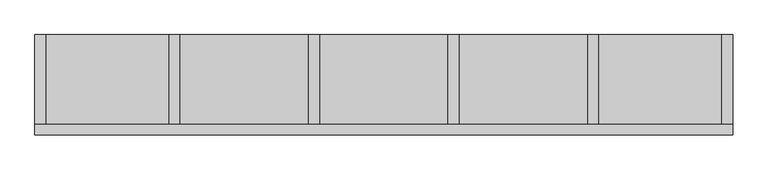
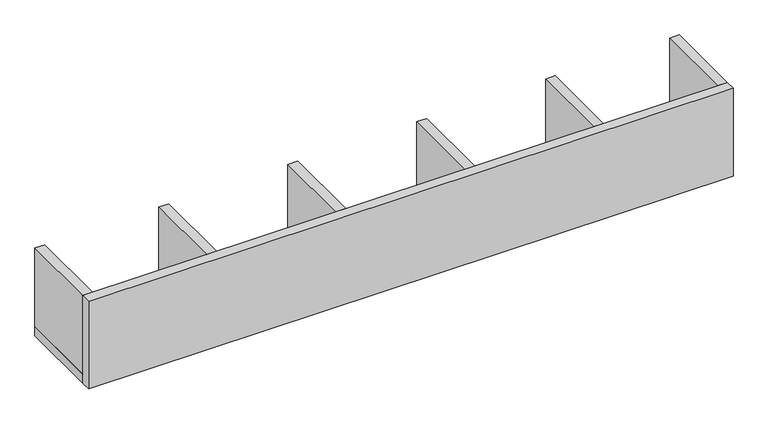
"""IFC4 building model written with IfcOpenShell, lengths in millimetres: furniture geometry, Police nástěnná : Benno Mensola."""

import ifcopenshell
import ifcopenshell.guid

model = None  # the IFC model being written
_history = None  # IfcOwnerHistory: only IFC2X3 demands one
_inside = {}  # id of a spatial element -> (the spatial element, [elements in it])
_under = {}  # id of a project, library or spatial element -> (it, [spatial elements below it])
_declared = {}  # id of a project -> (the project, [libraries it declares])
_typed = {}  # id of a type object -> (the type object, [elements of that type])
_made_of = {}  # id of a material, layer set ... -> (it, [elements and type objects made of it])


def new_model(schema):
    """Start an empty IFC model of exactly this schema.

    Asked for "IFC4X3", IfcOpenShell would pick the latest addendum, in which some entities
    have other attributes; the version numbers below select the first issue.
    IFC2X3 requires an IfcOwnerHistory on every rooted entity: one is made here for all.
    """
    global model, _history
    if schema == "IFC4X3":
        model = ifcopenshell.file(schema_version=(4, 3, 0, 0))
    else:
        model = ifcopenshell.file(schema=schema)
    _inside.clear()
    _under.clear()
    _declared.clear()
    _typed.clear()
    _made_of.clear()
    _history = None
    if model.schema == "IFC2X3":
        org = make("IfcOrganization", Name="unknown")
        user = make(
            "IfcPersonAndOrganization",
            ThePerson=make("IfcPerson", FamilyName="unknown"),
            TheOrganization=org,
        )
        app = make(
            "IfcApplication",
            ApplicationDeveloper=org,
            Version="unknown",
            ApplicationFullName="unknown",
            ApplicationIdentifier="unknown",
        )
        _history = make(
            "IfcOwnerHistory",
            OwningUser=user,
            OwningApplication=app,
            ChangeAction="ADDED",
            CreationDate=0,
        )
    return model


def make(cls, **values):
    """One entity of the class cls with the attributes given. An attribute that is None is left unset."""
    return model.create_entity(
        cls, **{name: value for name, value in values.items() if value is not None}
    )


def rooted(cls, **values):
    """An entity with a GlobalId (a new one), such as an element, a storey or a relation."""
    return make(cls, GlobalId=ifcopenshell.guid.new(), OwnerHistory=_history, **values)


def si_unit(unit_type, name, prefix=None):
    """IfcSIUnit, for example si_unit("LENGTHUNIT", "METRE", prefix="MILLI")."""
    return make("IfcSIUnit", UnitType=unit_type, Prefix=prefix, Name=name)


def assignment(units):
    """IfcUnitAssignment: the units of a project."""
    return None if units is None else make("IfcUnitAssignment", Units=units)


def point(xyz):
    """IfcCartesianPoint."""
    return None if xyz is None else make("IfcCartesianPoint", Coordinates=xyz)


def direction(xyz):
    """IfcDirection."""
    return None if xyz is None else make("IfcDirection", DirectionRatios=xyz)


def frame(location, z_axis=None, x_axis=None):
    """IfcAxis2Placement3D, a coordinate frame: its origin and axes. An axis left out is left unset."""
    return make(
        "IfcAxis2Placement3D",
        Location=point(location),
        Axis=direction(z_axis),
        RefDirection=direction(x_axis),
    )


def origin():
    """The frame at (0, 0, 0) with its axes left unset."""
    return frame((0.0, 0.0, 0.0))


def place(relative_to, where):
    """IfcLocalPlacement: puts the frame where relative to a parent placement (None: the world)."""
    return make(
        "IfcLocalPlacement", PlacementRelTo=relative_to, RelativePlacement=where
    )


def context(
    kind, dimensions, precision=None, world=None, true_north=None, identifier=None
):
    """IfcGeometricRepresentationContext, for example the 3D "Model" context."""
    return make(
        "IfcGeometricRepresentationContext",
        ContextIdentifier=identifier,
        ContextType=kind,
        CoordinateSpaceDimension=dimensions,
        Precision=precision,
        WorldCoordinateSystem=world,
        TrueNorth=true_north,
    )


def project(units=None, contexts=None):
    """IfcProject with its units and contexts."""
    return rooted(
        "IfcProject",
        Name="project",
        RepresentationContexts=contexts,
        UnitsInContext=assignment(units),
    )


def spatial(cls, under=None, at=None, **own):
    """A site, building, storey or space (cls), placed at a placement, below another one or the project."""
    s = rooted(cls, ObjectPlacement=at, **own)
    if under is not None:
        _under.setdefault(under.id(), (under, []))[1].append(s)
    return s


def polyline(points):
    """IfcPolyline through the points."""
    return make("IfcPolyline", Points=[point(p) for p in points])


def outline(outer, holes=None, kind="AREA"):
    """IfcArbitraryClosedProfileDef: a profile drawn as a closed curve; with holes, ...WithVoids."""
    if holes is None:
        return make("IfcArbitraryClosedProfileDef", ProfileType=kind, OuterCurve=outer)
    return make(
        "IfcArbitraryProfileDefWithVoids",
        ProfileType=kind,
        OuterCurve=outer,
        InnerCurves=holes,
    )


def extrude(swept, where, along, depth):
    """IfcExtrudedAreaSolid: the profile swept, set in the frame where, extruded along a direction by depth."""
    return make(
        "IfcExtrudedAreaSolid",
        SweptArea=swept,
        Position=where,
        ExtrudedDirection=direction(along),
        Depth=depth,
    )


def shape(context_of_items, identifier, shape_type, items):
    """IfcShapeRepresentation: the items that make up one representation, for example the "Body"."""
    return make(
        "IfcShapeRepresentation",
        ContextOfItems=context_of_items,
        RepresentationIdentifier=identifier,
        RepresentationType=shape_type,
        Items=items,
    )


def source(mapping_origin, context_of_items, identifier, shape_type, items):
    """IfcRepresentationMap: a shape defined once, which mapped items show again and again."""
    return make(
        "IfcRepresentationMap",
        MappingOrigin=mapping_origin,
        MappedRepresentation=shape(context_of_items, identifier, shape_type, items),
    )


def transform(
    local_origin,
    x_axis=None,
    y_axis=None,
    z_axis=None,
    scale=None,
    scale2=None,
    scale3=None,
    uniform=True,
):
    """IfcCartesianTransformationOperator3D, or its non-uniform kind. x_axis, y_axis, z_axis: its Axis1, 2, 3."""
    if uniform:
        return make(
            "IfcCartesianTransformationOperator3D",
            Axis1=direction(x_axis),
            Axis2=direction(y_axis),
            LocalOrigin=point(local_origin),
            Scale=scale,
            Axis3=direction(z_axis),
        )
    return make(
        "IfcCartesianTransformationOperator3DnonUniform",
        Axis1=direction(x_axis),
        Axis2=direction(y_axis),
        LocalOrigin=point(local_origin),
        Scale=scale,
        Axis3=direction(z_axis),
        Scale2=scale2,
        Scale3=scale3,
    )


def mapped(mapping_source, mapping_target):
    """IfcMappedItem: shows the shape of a source again, moved by a transform."""
    return make(
        "IfcMappedItem", MappingSource=mapping_source, MappingTarget=mapping_target
    )


def made_of(thing, what):
    """Note that an element or type object is made of a material, layer set ...; save() writes the relation."""
    if what is not None:
        _made_of.setdefault(what.id(), (what, []))[1].append(thing)
    return thing


def element(
    cls,
    number,
    at=None,
    inside=None,
    cuts=None,
    type_object=None,
    material=None,
    context=None,
    identifier="Body",
    shape_type=None,
    held_by="IfcProductDefinitionShape",
    body=None,
    shapes=None,
    **own,
):
    """One element of the class cls, such as IfcWall. Its Tag is "e" and its number.

    at: its placement. inside: the storey or other place that contains it. cuts: it is an
    opening in that element (IfcRelVoidsElement). A single representation is given by context,
    identifier, shape_type and body (its items); several are given by shapes. held_by: the class
    of the entity that holds the representations. save() writes the other relations.
    """
    e = rooted(cls, Tag="e%d" % number, ObjectPlacement=at, **own)
    if body is not None:
        shapes = [shape(context, identifier, shape_type, body)]
    if shapes is not None:
        e.Representation = make(held_by, Representations=shapes)
    if inside is not None:
        _inside.setdefault(inside.id(), (inside, []))[1].append(e)
    if cuts is not None:
        rooted(
            "IfcRelVoidsElement", RelatingBuildingElement=cuts, RelatedOpeningElement=e
        )
    if type_object is not None:
        _typed.setdefault(type_object.id(), (type_object, []))[1].append(e)
    return made_of(e, material)


def aggregate(whole, parts):
    """IfcRelAggregates: a whole, such as a stair, and the parts it consists of."""
    return rooted("IfcRelAggregates", RelatingObject=whole, RelatedObjects=parts)


def save(model, path):
    """Write the relations noted so far, then the file.

    IfcRelAggregates (storeys below a building ...), IfcRelContainedInSpatialStructure (elements
    in a storey), IfcRelDefinesByType, IfcRelAssociatesMaterial and IfcRelDeclares: one each for
    every whole, place, type object, material and project.
    """
    for whole, parts in _under.values():
        aggregate(whole, parts)
    for where, things in _inside.values():
        rooted(
            "IfcRelContainedInSpatialStructure",
            RelatedElements=things,
            RelatingStructure=where,
        )
    for kind, things in _typed.values():
        rooted("IfcRelDefinesByType", RelatedObjects=things, RelatingType=kind)
    for what, things in _made_of.values():
        rooted("IfcRelAssociatesMaterial", RelatedObjects=things, RelatingMaterial=what)
    for by, libraries in _declared.values():
        rooted("IfcRelDeclares", RelatingContext=by, RelatedDefinitions=libraries)
    model.write(path)


def furniture_7eedec44(model_context):
    return source(origin(), model_context, "Body", "SweptSolid", [
        extrude(outline(polyline([(570.2197735, 62.5), (-609.7802265, 62.5), (-609.7802265, 80.5), (570.2197735, 80.5), (570.2197735, 62.5)])), frame((0.0, 0.0, 1700.0), z_axis=(0.0, 0.0, 1.0), x_axis=(1.0, 0.0, 0.0)), (0.0, 0.0, 1.0), 170.0),
        extrude(outline(polyline([(570.2197735, 80.5), (552.2197735, 80.5), (552.2197735, 232.5), (570.2197735, 232.5), (570.2197735, 80.5)])), frame((0.0, 0.0, 1718.0), z_axis=(0.0, 0.0, 1.0), x_axis=(1.0, 0.0, 0.0)), (0.0, 0.0, 1.0), 152.0),
        extrude(outline(polyline([(343.2197735, 80.5), (325.2197735, 80.5), (325.2197735, 232.5), (343.2197735, 232.5), (343.2197735, 80.5)])), frame((0.0, 0.0, 1718.0), z_axis=(0.0, 0.0, 1.0), x_axis=(1.0, 0.0, 0.0)), (0.0, 0.0, 1.0), 152.0),
        extrude(outline(polyline([(107.2197735, 80.5), (89.2197735, 80.5), (89.2197735, 232.5), (107.2197735, 232.5), (107.2197735, 80.5)])), frame((0.0, 0.0, 1718.0), z_axis=(0.0, 0.0, 1.0), x_axis=(1.0, 0.0, 0.0)), (0.0, 0.0, 1.0), 152.0),
        extrude(outline(polyline([(-128.7802265, 80.5), (-146.7802265, 80.5), (-146.7802265, 232.5), (-128.7802265, 232.5), (-128.7802265, 80.5)])), frame((0.0, 0.0, 1718.0), z_axis=(0.0, 0.0, 1.0), x_axis=(1.0, 0.0, 0.0)), (0.0, 0.0, 1.0), 152.0),
        extrude(outline(polyline([(-364.7802265, 80.5), (-382.7802265, 80.5), (-382.7802265, 232.5), (-364.7802265, 232.5), (-364.7802265, 80.5)])), frame((0.0, 0.0, 1718.0), z_axis=(0.0, 0.0, 1.0), x_axis=(1.0, 0.0, 0.0)), (0.0, 0.0, 1.0), 152.0),
        extrude(outline(polyline([(-591.7802265, 80.5), (-609.7802265, 80.5), (-609.7802265, 232.5), (-591.7802265, 232.5), (-591.7802265, 80.5)])), frame((0.0, 0.0, 1718.0), z_axis=(0.0, 0.0, 1.0), x_axis=(1.0, 0.0, 0.0)), (0.0, 0.0, 1.0), 152.0),
        extrude(outline(polyline([(570.2197735, 80.5), (-609.7802265, 80.5), (-609.7802265, 232.5), (570.2197735, 232.5), (570.2197735, 80.5)])), frame((0.0, 0.0, 1700.0), z_axis=(0.0, 0.0, 1.0), x_axis=(1.0, 0.0, 0.0)), (0.0, 0.0, 1.0), 18.0),
    ])


if __name__ == "__main__":
    model = new_model("IFC4")
    model_context = context("Model", 3, world=origin())
    ifc_project = project(units=[si_unit("LENGTHUNIT", "METRE", prefix="MILLI")], contexts=[model_context])
    site = spatial("IfcSite", under=ifc_project)
    building = spatial("IfcBuilding", under=site)
    placement = place(None, origin())
    furniture_shape = furniture_7eedec44(model_context)
    element("IfcFurniture", 1, ObjectType="Police nástěnná : Benno Mensola", at=placement, inside=building, context=model_context, shape_type="MappedRepresentation", body=[
        mapped(furniture_shape, transform((0.0, 0.0, 0.0), x_axis=(1.0, 0.0, 0.0), y_axis=(0.0, 1.0, 0.0), z_axis=(0.0, 0.0, 1.0))),
    ])
    save(model, "model.ifc")
